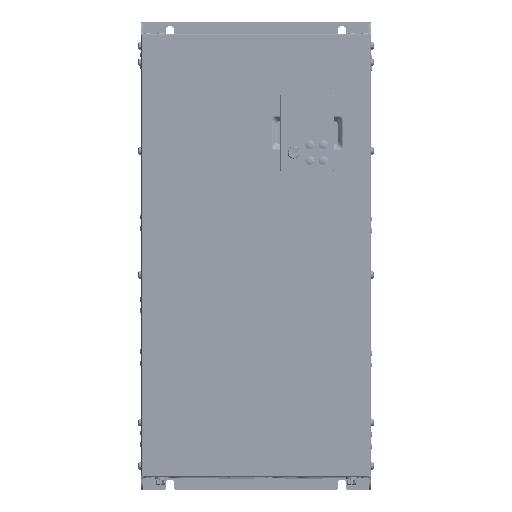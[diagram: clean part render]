
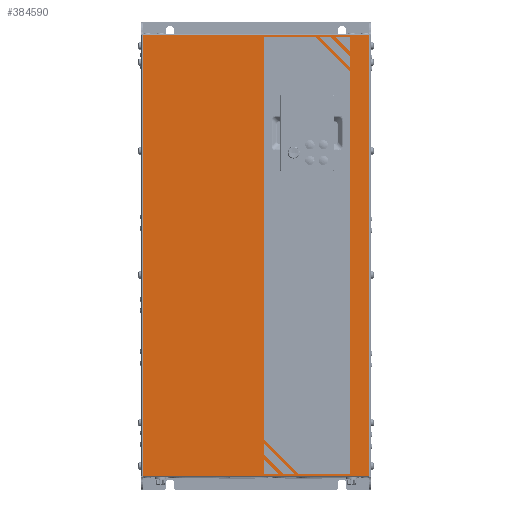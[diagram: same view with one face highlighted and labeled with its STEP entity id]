
A CAD part, top view. The second image highlights one B-rep face of the part: STEP entity #384590.
In plain terms, the highlighted planar face has unit normal (0, 0, 1).
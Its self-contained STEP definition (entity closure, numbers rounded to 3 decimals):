
#381323=DIRECTION('',(0.,-1.,0.));
#381324=VECTOR('',#381323,461.);
#381325=CARTESIAN_POINT('',(-118.8,0.5,257.));
#381326=LINE('',#381325,#381324);
#381637=DIRECTION('',(0.,-1.,0.));
#381638=VECTOR('',#381637,461.);
#381639=CARTESIAN_POINT('',(118.8,0.5,257.));
#381640=LINE('',#381639,#381638);
#381689=DIRECTION('',(-1.,0.,0.));
#381690=VECTOR('',#381689,237.6);
#381691=CARTESIAN_POINT('',(118.8,0.5,257.));
#381692=LINE('',#381691,#381690);
#381696=DIRECTION('',(-1.,0.,0.));
#381697=VECTOR('',#381696,237.6);
#381698=CARTESIAN_POINT('',(118.8,-460.5,257.));
#381699=LINE('',#381698,#381697);
#381703=DIRECTION('',(0.,-1.,0.));
#381704=VECTOR('',#381703,15.);
#381705=CARTESIAN_POINT('',(8.5,-443.5,257.));
#381706=LINE('',#381705,#381704);
#381710=DIRECTION('',(1.,0.,0.));
#381711=VECTOR('',#381710,15.);
#381712=CARTESIAN_POINT('',(8.5,-458.5,257.));
#381713=LINE('',#381712,#381711);
#381717=DIRECTION('',(-0.707,0.707,0.));
#381718=VECTOR('',#381717,21.213);
#381719=CARTESIAN_POINT('',(23.5,-458.5,257.));
#381720=LINE('',#381719,#381718);
#381724=DIRECTION('',(0.,1.,0.));
#381725=VECTOR('',#381724,15.);
#381726=CARTESIAN_POINT('',(98.5,-16.5,257.));
#381727=LINE('',#381726,#381725);
#381731=DIRECTION('',(-1.,0.,0.));
#381732=VECTOR('',#381731,15.);
#381733=CARTESIAN_POINT('',(98.5,-1.5,257.));
#381734=LINE('',#381733,#381732);
#381738=DIRECTION('',(0.707,-0.707,0.));
#381739=VECTOR('',#381738,21.213);
#381740=CARTESIAN_POINT('',(83.5,-1.5,257.));
#381741=LINE('',#381740,#381739);
#381745=DIRECTION('',(-0.707,0.707,0.));
#381746=VECTOR('',#381745,28.213);
#381747=CARTESIAN_POINT('',(98.5,-21.45,257.));
#381748=LINE('',#381747,#381746);
#381752=DIRECTION('',(-1.,0.,0.));
#381753=VECTOR('',#381752,11.314);
#381754=CARTESIAN_POINT('',(78.55,-1.5,257.));
#381755=LINE('',#381754,#381753);
#381759=DIRECTION('',(0.707,-0.707,0.));
#381760=VECTOR('',#381759,44.213);
#381761=CARTESIAN_POINT('',(67.237,-1.5,257.));
#381762=LINE('',#381761,#381760);
#381766=DIRECTION('',(0.,1.,0.));
#381767=VECTOR('',#381766,11.314);
#381768=CARTESIAN_POINT('',(98.5,-32.763,257.));
#381769=LINE('',#381768,#381767);
#381773=DIRECTION('',(-0.707,0.707,0.));
#381774=VECTOR('',#381773,51.213);
#381775=CARTESIAN_POINT('',(98.5,-37.713,257.));
#381776=LINE('',#381775,#381774);
#381780=DIRECTION('',(-1.,0.,0.));
#381781=VECTOR('',#381780,53.787);
#381782=CARTESIAN_POINT('',(62.287,-1.5,257.));
#381783=LINE('',#381782,#381781);
#381787=DIRECTION('',(0.,-1.,0.));
#381788=VECTOR('',#381787,420.787);
#381789=CARTESIAN_POINT('',(8.5,-1.5,257.));
#381790=LINE('',#381789,#381788);
#381794=DIRECTION('',(0.707,-0.707,0.));
#381795=VECTOR('',#381794,51.213);
#381796=CARTESIAN_POINT('',(8.5,-422.287,257.));
#381797=LINE('',#381796,#381795);
#381801=DIRECTION('',(1.,0.,0.));
#381802=VECTOR('',#381801,53.787);
#381803=CARTESIAN_POINT('',(44.713,-458.5,257.));
#381804=LINE('',#381803,#381802);
#381808=DIRECTION('',(0.,1.,0.));
#381809=VECTOR('',#381808,420.787);
#381810=CARTESIAN_POINT('',(98.5,-458.5,257.));
#381811=LINE('',#381810,#381809);
#381815=DIRECTION('',(0.707,-0.707,0.));
#381816=VECTOR('',#381815,28.213);
#381817=CARTESIAN_POINT('',(8.5,-438.55,257.));
#381818=LINE('',#381817,#381816);
#381822=DIRECTION('',(1.,0.,0.));
#381823=VECTOR('',#381822,11.314);
#381824=CARTESIAN_POINT('',(28.45,-458.5,257.));
#381825=LINE('',#381824,#381823);
#381829=DIRECTION('',(-0.707,0.707,0.));
#381830=VECTOR('',#381829,44.213);
#381831=CARTESIAN_POINT('',(39.763,-458.5,257.));
#381832=LINE('',#381831,#381830);
#381836=DIRECTION('',(0.,-1.,0.));
#381837=VECTOR('',#381836,11.314);
#381838=CARTESIAN_POINT('',(8.5,-427.237,257.));
#381839=LINE('',#381838,#381837);
#383563=CARTESIAN_POINT('',(118.8,-460.5,257.));
#383565=VERTEX_POINT('',#383563);
#383567=CARTESIAN_POINT('',(-118.8,-460.5,257.));
#383569=VERTEX_POINT('',#383567);
#383570=CARTESIAN_POINT('',(-118.8,0.5,257.));
#383571=VERTEX_POINT('',#383570);
#383572=CARTESIAN_POINT('',(118.8,0.5,257.));
#383573=VERTEX_POINT('',#383572);
#383834=CARTESIAN_POINT('',(8.5,-443.5,257.));
#383835=CARTESIAN_POINT('',(8.5,-458.5,257.));
#383836=VERTEX_POINT('',#383834);
#383837=VERTEX_POINT('',#383835);
#383838=CARTESIAN_POINT('',(98.5,-16.5,257.));
#383839=CARTESIAN_POINT('',(98.5,-1.5,257.));
#383840=VERTEX_POINT('',#383838);
#383841=VERTEX_POINT('',#383839);
#383874=CARTESIAN_POINT('',(83.5,-1.5,257.));
#383875=VERTEX_POINT('',#383874);
#383876=CARTESIAN_POINT('',(98.5,-21.45,257.));
#383877=CARTESIAN_POINT('',(78.55,-1.5,257.));
#383878=VERTEX_POINT('',#383876);
#383879=VERTEX_POINT('',#383877);
#383880=CARTESIAN_POINT('',(67.237,-1.5,257.));
#383881=VERTEX_POINT('',#383880);
#383882=CARTESIAN_POINT('',(98.5,-32.763,257.));
#383883=VERTEX_POINT('',#383882);
#383884=CARTESIAN_POINT('',(98.5,-37.713,257.));
#383885=CARTESIAN_POINT('',(62.287,-1.5,257.));
#383886=VERTEX_POINT('',#383884);
#383887=VERTEX_POINT('',#383885);
#383888=CARTESIAN_POINT('',(8.5,-1.5,257.));
#383889=VERTEX_POINT('',#383888);
#383890=CARTESIAN_POINT('',(8.5,-422.287,257.));
#383891=VERTEX_POINT('',#383890);
#383892=CARTESIAN_POINT('',(44.713,-458.5,257.));
#383893=VERTEX_POINT('',#383892);
#383894=CARTESIAN_POINT('',(98.5,-458.5,257.));
#383895=VERTEX_POINT('',#383894);
#383896=CARTESIAN_POINT('',(23.5,-458.5,257.));
#383897=VERTEX_POINT('',#383896);
#383898=CARTESIAN_POINT('',(8.5,-438.55,257.));
#383899=CARTESIAN_POINT('',(28.45,-458.5,257.));
#383900=VERTEX_POINT('',#383898);
#383901=VERTEX_POINT('',#383899);
#383902=CARTESIAN_POINT('',(39.763,-458.5,257.));
#383903=VERTEX_POINT('',#383902);
#383904=CARTESIAN_POINT('',(8.5,-427.237,257.));
#383905=VERTEX_POINT('',#383904);
#384528=CARTESIAN_POINT('',(-120.,1.7,257.));
#384529=DIRECTION('',(0.,0.,1.));
#384530=DIRECTION('',(0.,-1.,0.));
#384531=AXIS2_PLACEMENT_3D('',#384528,#384529,#384530);
#384532=PLANE('',#384531);
#384534=ORIENTED_EDGE('',*,*,#384533,.F.);
#384535=ORIENTED_EDGE('',*,*,#384469,.T.);
#384536=ORIENTED_EDGE('',*,*,#384520,.T.);
#384537=ORIENTED_EDGE('',*,*,#384286,.F.);
#384538=EDGE_LOOP('',(#384534,#384535,#384536,#384537));
#384539=FACE_OUTER_BOUND('',#384538,.F.);
#384541=ORIENTED_EDGE('',*,*,#384540,.T.);
#384543=ORIENTED_EDGE('',*,*,#384542,.T.);
#384545=ORIENTED_EDGE('',*,*,#384544,.T.);
#384546=EDGE_LOOP('',(#384541,#384543,#384545));
#384547=FACE_BOUND('',#384546,.F.);
#384549=ORIENTED_EDGE('',*,*,#384548,.T.);
#384551=ORIENTED_EDGE('',*,*,#384550,.T.);
#384553=ORIENTED_EDGE('',*,*,#384552,.T.);
#384554=EDGE_LOOP('',(#384549,#384551,#384553));
#384555=FACE_BOUND('',#384554,.F.);
#384557=ORIENTED_EDGE('',*,*,#384556,.T.);
#384559=ORIENTED_EDGE('',*,*,#384558,.T.);
#384561=ORIENTED_EDGE('',*,*,#384560,.T.);
#384563=ORIENTED_EDGE('',*,*,#384562,.T.);
#384564=EDGE_LOOP('',(#384557,#384559,#384561,#384563));
#384565=FACE_BOUND('',#384564,.F.);
#384567=ORIENTED_EDGE('',*,*,#384566,.T.);
#384569=ORIENTED_EDGE('',*,*,#384568,.T.);
#384571=ORIENTED_EDGE('',*,*,#384570,.T.);
#384573=ORIENTED_EDGE('',*,*,#384572,.T.);
#384575=ORIENTED_EDGE('',*,*,#384574,.T.);
#384577=ORIENTED_EDGE('',*,*,#384576,.T.);
#384578=EDGE_LOOP('',(#384567,#384569,#384571,#384573,#384575,#384577));
#384579=FACE_BOUND('',#384578,.F.);
#384581=ORIENTED_EDGE('',*,*,#384580,.T.);
#384583=ORIENTED_EDGE('',*,*,#384582,.T.);
#384585=ORIENTED_EDGE('',*,*,#384584,.T.);
#384587=ORIENTED_EDGE('',*,*,#384586,.T.);
#384588=EDGE_LOOP('',(#384581,#384583,#384585,#384587));
#384589=FACE_BOUND('',#384588,.F.);
#384590=ADVANCED_FACE('',(#384539,#384547,#384555,#384565,#384579,#384589),
#384532,.T.);
#384286=EDGE_CURVE('',#383571,#383569,#381326,.T.);
#384469=EDGE_CURVE('',#383573,#383565,#381640,.T.);
#384520=EDGE_CURVE('',#383565,#383569,#381699,.T.);
#384533=EDGE_CURVE('',#383573,#383571,#381692,.T.);
#384540=EDGE_CURVE('',#383836,#383837,#381706,.T.);
#384542=EDGE_CURVE('',#383837,#383897,#381713,.T.);
#384544=EDGE_CURVE('',#383897,#383836,#381720,.T.);
#384548=EDGE_CURVE('',#383840,#383841,#381727,.T.);
#384550=EDGE_CURVE('',#383841,#383875,#381734,.T.);
#384552=EDGE_CURVE('',#383875,#383840,#381741,.T.);
#384556=EDGE_CURVE('',#383878,#383879,#381748,.T.);
#384558=EDGE_CURVE('',#383879,#383881,#381755,.T.);
#384560=EDGE_CURVE('',#383881,#383883,#381762,.T.);
#384562=EDGE_CURVE('',#383883,#383878,#381769,.T.);
#384566=EDGE_CURVE('',#383886,#383887,#381776,.T.);
#384568=EDGE_CURVE('',#383887,#383889,#381783,.T.);
#384570=EDGE_CURVE('',#383889,#383891,#381790,.T.);
#384572=EDGE_CURVE('',#383891,#383893,#381797,.T.);
#384574=EDGE_CURVE('',#383893,#383895,#381804,.T.);
#384576=EDGE_CURVE('',#383895,#383886,#381811,.T.);
#384580=EDGE_CURVE('',#383900,#383901,#381818,.T.);
#384582=EDGE_CURVE('',#383901,#383903,#381825,.T.);
#384584=EDGE_CURVE('',#383903,#383905,#381832,.T.);
#384586=EDGE_CURVE('',#383905,#383900,#381839,.T.);
